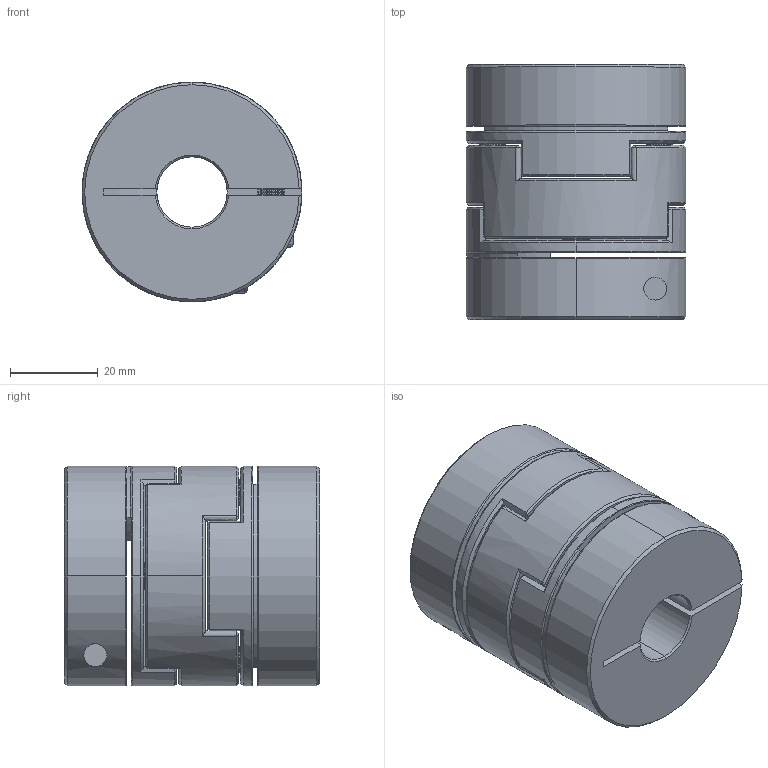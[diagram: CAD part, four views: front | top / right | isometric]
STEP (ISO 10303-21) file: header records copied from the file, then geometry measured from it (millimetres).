
FILE_DESCRIPTION (( 'STEP AP203' ), '1' );
FILE_NAME ('LZ-B-D50L58-16-24.STEP', '2021-10-29T08:12:33', ( '' ), ( '' ), 'SwSTEP 2.0', 'SolidWorks 2018', '' );
FILE_SCHEMA (( 'CONFIG_CONTROL_DESIGN' ));
Length unit declared in the file: millimetre
Products named in the file (1): LZ-B-D50L58-16-24
Bounding box: 50 x 58 x 50 mm (x, y, z)
Volume: 87128.8 mm3; surface area: 29648.2 mm2
Topology: 1 solids, 27 shells, 561 faces, 1370 edges, 814 vertices
Faces by surface type: cone 252, cylinder 160, plane 91, bspline 54, torus 4
Entity records: 17482 total; most frequent: CARTESIAN_POINT 4365, DIRECTION 2786, ORIENTED_EDGE 2732, EDGE_CURVE 1366, AXIS2_PLACEMENT_3D 1124, VERTEX_POINT 814, CIRCLE 616, EDGE_LOOP 594
